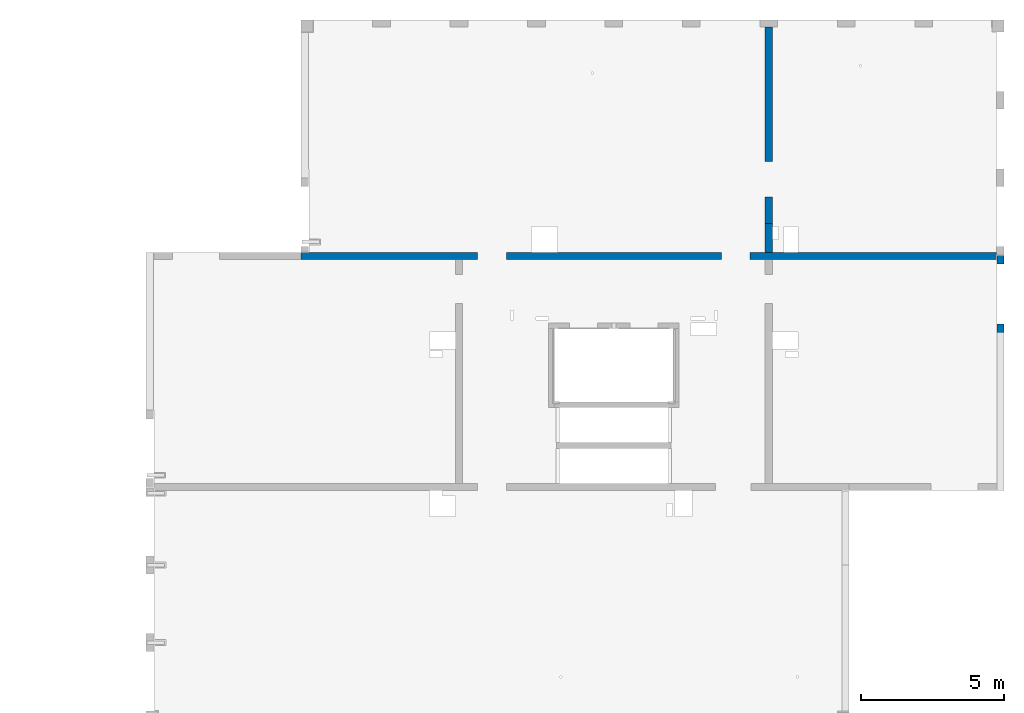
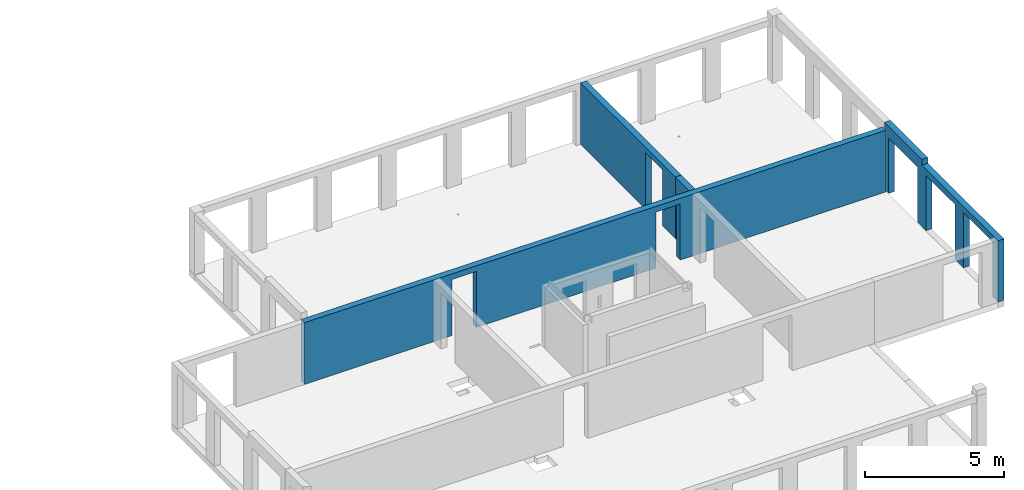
# One storey, part 6 of 12: 4 walls, 7 openings.
"""IFC2X3 building model written with IfcOpenShell, lengths in millimetres."""

from ifc_helpers import new_model, entity, si_unit, converted_unit, derived_unit, direction, frame, frame_2d, origin, place, context, subcontext, project, spatial, rectangle, extrude, material, layer, layer_set, layer_usage, type_object, element, save


model = new_model("IFC2X3")

# Units and contexts
model_context = context("Model", 3, precision=0.01, world=origin(), true_north=direction((6.12303176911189e-17, 1.0)))
body_context = subcontext(model_context, "Body", "Model", "MODEL_VIEW")
ifc_project = project(units=[si_unit("LENGTHUNIT", "METRE", prefix="MILLI"), si_unit("AREAUNIT", "SQUARE_METRE"), si_unit("VOLUMEUNIT", "CUBIC_METRE"), converted_unit("PLANEANGLEUNIT", "DEGREE", entity("IfcRatioMeasure", 0.0174532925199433), si_unit("PLANEANGLEUNIT", "RADIAN"), dimensions=[0, 0, 0, 0, 0, 0, 0]), si_unit("MASSUNIT", "GRAM", prefix="KILO"), derived_unit("MASSDENSITYUNIT", [(si_unit("MASSUNIT", "GRAM", prefix="KILO"), 1), (si_unit("LENGTHUNIT", "METRE"), -3)]), si_unit("TIMEUNIT", "SECOND"), si_unit("FREQUENCYUNIT", "HERTZ"), si_unit("THERMODYNAMICTEMPERATUREUNIT", "DEGREE_CELSIUS"), derived_unit("THERMALTRANSMITTANCEUNIT", [(si_unit("MASSUNIT", "GRAM", prefix="KILO"), 1), (si_unit("THERMODYNAMICTEMPERATUREUNIT", "KELVIN"), -1), (si_unit("TIMEUNIT", "SECOND"), -3)]), derived_unit("VOLUMETRICFLOWRATEUNIT", [(si_unit("LENGTHUNIT", "METRE"), 3), (si_unit("TIMEUNIT", "SECOND"), -1)]), si_unit("ELECTRICCURRENTUNIT", "AMPERE"), si_unit("ELECTRICVOLTAGEUNIT", "VOLT"), si_unit("POWERUNIT", "WATT"), si_unit("FORCEUNIT", "NEWTON", prefix="KILO"), si_unit("ILLUMINANCEUNIT", "LUX"), si_unit("LUMINOUSFLUXUNIT", "LUMEN"), si_unit("LUMINOUSINTENSITYUNIT", "CANDELA"), derived_unit("USERDEFINED", [(si_unit("MASSUNIT", "GRAM", prefix="KILO"), -1), (si_unit("LENGTHUNIT", "METRE"), -2), (si_unit("TIMEUNIT", "SECOND"), 3), (si_unit("LUMINOUSFLUXUNIT", "LUMEN"), 1)]), derived_unit("LINEARVELOCITYUNIT", [(si_unit("LENGTHUNIT", "METRE"), 1), (si_unit("TIMEUNIT", "SECOND"), -1)]), si_unit("PRESSUREUNIT", "PASCAL"), derived_unit("USERDEFINED", [(si_unit("LENGTHUNIT", "METRE"), -2), (si_unit("MASSUNIT", "GRAM", prefix="KILO"), 1), (si_unit("TIMEUNIT", "SECOND"), -2)])], contexts=[model_context])

# Site, building, storey
site_placement = place(None, origin())
site = spatial("IfcSite", under=ifc_project, at=site_placement, Name="Default", CompositionType="ELEMENT")
building_placement = place(site_placement, origin())
building = spatial("IfcBuilding", under=site, at=building_placement, Name="niet gebruiken", CompositionType="ELEMENT")
storey_placement = place(building_placement, frame((0.0, 0.0, 24480.0)))
storey = spatial("IfcBuildingStorey", under=building, at=storey_placement, Name="08 achtste verdieping", CompositionType="ELEMENT", Elevation=24480.0)

# Wall, opening
ifc_material_1 = material(Name="NLRS_f2_beton ihwg")
ifc_layer_1 = layer(ifc_material_1, 250.0)
ifc_layer_set_1 = layer_set([ifc_layer_1], Name="Basic Wall:NLRS_22.21_WA_beton ihwg d=250_gen")
ifc_layer_usage_1 = layer_usage(ifc_layer_set_1, "AXIS2", "NEGATIVE", 125.0)
wall_type_1 = type_object("IfcWallType", Name="Basic Wall:NLRS_22.21_WA_beton ihwg d=250_gen", PredefinedType="STANDARD", material=ifc_layer_set_1)
wall_1_placement = place(storey_placement, frame((97200.0, 53006.0, -90.0), z_axis=(0.0, 0.0, 1.0), x_axis=(0.0, -1.0, 0.0)))
wall_1 = element("IfcWallStandardCase", 1, at=wall_1_placement, inside=storey, type_object=wall_type_1, material=ifc_layer_usage_1, Name="Basic Wall:NLRS_22.21_WA_beton ihwg d=250_gen", ObjectType="Basic Wall:NLRS_22.21_WA_beton ihwg d=250_gen", context=body_context, shape_type="SweptSolid", body=[
    extrude(rectangle(XDim=6850.00000000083, YDim=250.000000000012, at=frame_2d((3425.00000000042, -1.10134124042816e-12), x_axis=(-1.0, 0.0))), origin(), (0.0, 0.0, 1.0), 2719.99999999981),
])
opening_1_placement = place(wall_1_placement, origin())
element("IfcOpeningElement", 2, at=opening_1_placement, cuts=wall_1, Name="Basic Wall:NLRS_22.21_WA_beton ihwg d=250_gen", ObjectType="Opening", context=body_context, shape_type="SweptSolid", body=[
    extrude(rectangle(XDim=2470.0, YDim=1240.0, at=frame_2d((-4.43378667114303e-12, -4.37694325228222e-12), x_axis=(1.0, 0.0))), frame((5300.0, -1649.0, 1235.0), z_axis=(0.0, 1.0, 0.0), x_axis=(0.0, 0.0, 1.0)), (0.0, 0.0, 1.0), 3048.0),
])

# Wall, openings
ifc_layer_usage_2 = layer_usage(ifc_layer_set_1, "AXIS2", "NEGATIVE", 125.0)
wall_2_placement = place(storey_placement, frame((80900.0, 45031.0, -90.0)))
wall_2 = element("IfcWallStandardCase", 3, at=wall_2_placement, inside=storey, type_object=wall_type_1, material=ifc_layer_usage_2, Name="Basic Wall:NLRS_22.21_WA_beton ihwg d=250_gen", ObjectType="Basic Wall:NLRS_22.21_WA_beton ihwg d=250_gen", context=body_context, shape_type="SweptSolid", body=[
    extrude(rectangle(XDim=24230.0000000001, YDim=249.999999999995, at=frame_2d((12115.0000000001, 0.0), x_axis=(-1.0, 0.0))), origin(), (0.0, 0.0, 1.0), 2719.99999999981),
])
opening_2_placement = place(wall_2_placement, origin())
element("IfcOpeningElement", 4, at=opening_2_placement, cuts=wall_2, Name="Basic Wall:NLRS_22.21_WA_beton ihwg d=250_gen", ObjectType="Opening", context=body_context, shape_type="SweptSolid", body=[
    extrude(rectangle(XDim=2470.0, YDim=1006.0, at=frame_2d((0.0, 8.66862137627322e-12), x_axis=(1.0, 0.0))), frame((15148.0, -1649.0, 1235.0), z_axis=(0.0, 1.0, 0.0), x_axis=(0.0, 0.0, 1.0)), (0.0, 0.0, 1.0), 3048.0),
])
opening_3_placement = place(wall_2_placement, origin())
element("IfcOpeningElement", 5, at=opening_3_placement, cuts=wall_2, Name="Basic Wall:NLRS_22.21_WA_beton ihwg d=250_gen", ObjectType="Opening", context=body_context, shape_type="SweptSolid", body=[
    extrude(rectangle(XDim=2470.0, YDim=1006.0, at=frame_2d((0.0, 8.66862137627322e-12), x_axis=(1.0, 0.0))), frame((6652.0, -1649.0, 1235.0), z_axis=(0.0, 1.0, 0.0), x_axis=(0.0, 0.0, 1.0)), (0.0, 0.0, 1.0), 3048.0),
])

# Wall
ifc_layer_usage_3 = layer_usage(ifc_layer_set_1, "AXIS2", "NEGATIVE", 125.0)
wall_3_placement = place(storey_placement, frame((97200.0, 46156.0, -90.0), z_axis=(0.0, 0.0, 1.0), x_axis=(0.0, -1.0, 0.0)))
element("IfcWallStandardCase", 6, at=wall_3_placement, inside=storey, type_object=wall_type_1, material=ifc_layer_usage_3, Name="Basic Wall:NLRS_22.21_WA_beton ihwg d=250_gen", ObjectType="Basic Wall:NLRS_22.21_WA_beton ihwg d=250_gen", context=body_context, shape_type="SweptSolid", body=[
    extrude(rectangle(XDim=999.999999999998, YDim=250.000000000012, at=frame_2d((499.999999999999, 1.10134124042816e-12), x_axis=(-1.0, 0.0))), origin(), (0.0, 0.0, 1.0), 2719.99999999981),
])

# Wall, openings
ifc_material_2 = material(Name="NLRS_f2_beton prefab")
ifc_layer_2 = layer(ifc_material_2, 250.0)
ifc_layer_set_2 = layer_set([ifc_layer_2], Name="Basic Wall:NLRS_21.21_WA_beton prefab d=250_gen")
ifc_layer_usage_4 = layer_usage(ifc_layer_set_2, "AXIS2", "NEGATIVE", 125.0)
wall_type_2 = type_object("IfcWallType", Name="Basic Wall:NLRS_21.21_WA_beton prefab d=250_gen", PredefinedType="STANDARD", material=ifc_layer_set_2)
wall_4_placement = place(storey_placement, frame((105275.0, 45046.0, -70.0), z_axis=(0.0, 0.0, 1.0), x_axis=(0.0, -1.0, 0.0)))
wall_4 = element("IfcWallStandardCase", 7, at=wall_4_placement, inside=storey, type_object=wall_type_2, material=ifc_layer_usage_4, Name="Basic Wall:NLRS_21.21_WA_beton prefab d=250_gen", ObjectType="Basic Wall:NLRS_21.21_WA_beton prefab d=250_gen", context=body_context, shape_type="SweptSolid", body=[
    extrude(rectangle(XDim=8189.99999999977, YDim=250.000000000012, at=frame_2d((4094.99999999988, 0.0), x_axis=(-1.0, 0.0))), origin(), (0.0, 0.0, 1.0), 2949.99999999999),
])
opening_4_placement = place(wall_4_placement, origin())
element("IfcOpeningElement", 8, at=opening_4_placement, cuts=wall_4, Name="Basic Wall:NLRS_21.21_WA_beton prefab d=250_gen", ObjectType="Opening", context=body_context, shape_type="SweptSolid", body=[
    extrude(rectangle(XDim=2420.0, YDim=2080.0, at=frame_2d((0.0, -2.1600499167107e-12), x_axis=(0.0, 1.0))), frame((1340.0, -1399.0, 1210.0), z_axis=(0.0, 1.0, 0.0), x_axis=(-1.0, 0.0, 0.0)), (0.0, 0.0, 1.0), 3048.0),
])
opening_5_placement = place(wall_4_placement, origin())
element("IfcOpeningElement", 9, at=opening_5_placement, cuts=wall_4, Name="Basic Wall:NLRS_21.21_WA_beton prefab d=250_gen", ObjectType="Opening", context=body_context, shape_type="SweptSolid", body=[
    extrude(rectangle(XDim=2420.0, YDim=2080.0, at=frame_2d((0.0, -2.1600499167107e-12), x_axis=(0.0, 1.0))), frame((4040.0, -1399.0, 1210.0), z_axis=(0.0, 1.0, 0.0), x_axis=(-1.0, 0.0, 0.0)), (0.0, 0.0, 1.0), 3048.0),
])
opening_6_placement = place(wall_4_placement, origin())
element("IfcOpeningElement", 10, at=opening_6_placement, cuts=wall_4, Name="Basic Wall:NLRS_21.21_WA_beton prefab d=250_gen", ObjectType="Opening", context=body_context, shape_type="SweptSolid", body=[
    extrude(rectangle(XDim=2420.0, YDim=2080.0, at=frame_2d((0.0, -2.1600499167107e-12), x_axis=(0.0, 1.0))), frame((6740.0, -1399.0, 1210.0), z_axis=(0.0, 1.0, 0.0), x_axis=(-1.0, 0.0, 0.0)), (0.0, 0.0, 1.0), 3048.0),
])
opening_7_placement = place(wall_4_placement, origin())
element("IfcOpeningElement", 11, at=opening_7_placement, cuts=wall_4, Name="Basic Wall:NLRS_21.21_WA_beton prefab d=250_gen", ObjectType="Opening", context=body_context, shape_type="SweptSolid", body=[
    extrude(rectangle(XDim=249.999999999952, YDim=5500.0000000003, at=frame_2d((0.0, 4.32009983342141e-12), x_axis=(1.0, 0.0))), frame((5440.0, 125.0, 2825.0), z_axis=(0.0, -1.0, 0.0), x_axis=(0.0, 0.0, 1.0)), (0.0, 0.0, 1.0), 250.0),
])

save(model, "model.ifc")
